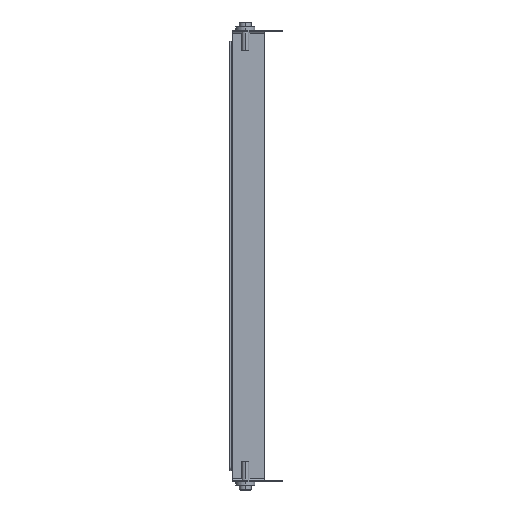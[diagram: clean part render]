
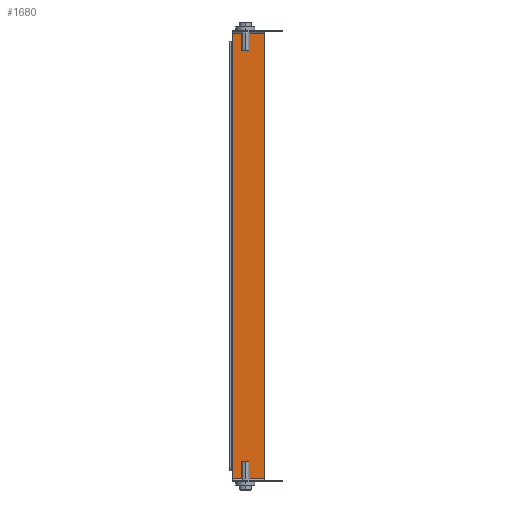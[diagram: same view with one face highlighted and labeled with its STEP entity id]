
A CAD part, left-side view. The second image highlights one B-rep face of the part: STEP entity #1680.
In plain terms, the highlighted planar face has unit normal (-1, 0, 0) as drawn and (0, 0, 1) by its records, which use the part's own axes.
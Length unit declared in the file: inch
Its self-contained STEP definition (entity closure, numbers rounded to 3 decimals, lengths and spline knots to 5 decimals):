
#327=DIRECTION('',(0.,-1.,0.));
#328=VECTOR('',#327,1.03498);
#329=CARTESIAN_POINT('',(7.3095,0.8125,0.));
#330=LINE('',#329,#328);
#335=DIRECTION('',(1.,0.,0.));
#336=VECTOR('',#335,14.619);
#337=CARTESIAN_POINT('',(-7.3095,-0.22248,0.));
#338=LINE('',#337,#336);
#717=DIRECTION('',(1.,0.,0.));
#718=VECTOR('',#717,0.2645);
#719=CARTESIAN_POINT('',(7.045,0.8125,0.));
#720=LINE('',#719,#718);
#803=DIRECTION('',(1.,0.,0.));
#804=VECTOR('',#803,14.09);
#805=CARTESIAN_POINT('',(-7.045,0.8125,0.));
#806=LINE('',#805,#804);
#829=DIRECTION('',(1.,0.,0.));
#830=VECTOR('',#829,0.2645);
#831=CARTESIAN_POINT('',(-7.3095,0.8125,0.));
#832=LINE('',#831,#830);
#851=DIRECTION('',(0.,1.,0.));
#852=VECTOR('',#851,1.03498);
#853=CARTESIAN_POINT('',(-7.3095,-0.22248,0.));
#854=LINE('',#853,#852);
#1164=CARTESIAN_POINT('',(-7.045,0.8125,0.));
#1166=VERTEX_POINT('',#1164);
#1179=CARTESIAN_POINT('',(-7.3095,-0.22248,0.));
#1180=CARTESIAN_POINT('',(7.3095,-0.22248,0.));
#1181=VERTEX_POINT('',#1179);
#1182=VERTEX_POINT('',#1180);
#1183=CARTESIAN_POINT('',(-7.3095,0.8125,0.));
#1184=VERTEX_POINT('',#1183);
#1186=CARTESIAN_POINT('',(7.045,0.8125,0.));
#1188=VERTEX_POINT('',#1186);
#1287=CARTESIAN_POINT('',(7.3095,0.8125,0.));
#1288=VERTEX_POINT('',#1287);
#1662=CARTESIAN_POINT('',(0.,0.,0.));
#1663=DIRECTION('',(0.,0.,1.));
#1664=DIRECTION('',(1.,0.,0.));
#1665=AXIS2_PLACEMENT_3D('',#1662,#1663,#1664);
#1666=PLANE('',#1665);
#1668=ORIENTED_EDGE('',*,*,#1667,.F.);
#1670=ORIENTED_EDGE('',*,*,#1669,.T.);
#1672=ORIENTED_EDGE('',*,*,#1671,.T.);
#1674=ORIENTED_EDGE('',*,*,#1673,.T.);
#1676=ORIENTED_EDGE('',*,*,#1675,.T.);
#1677=ORIENTED_EDGE('',*,*,#1653,.T.);
#1678=EDGE_LOOP('',(#1668,#1670,#1672,#1674,#1676,#1677));
#1679=FACE_OUTER_BOUND('',#1678,.F.);
#1653=EDGE_CURVE('',#1288,#1182,#330,.T.);
#1667=EDGE_CURVE('',#1181,#1182,#338,.T.);
#1669=EDGE_CURVE('',#1181,#1184,#854,.T.);
#1671=EDGE_CURVE('',#1184,#1166,#832,.T.);
#1673=EDGE_CURVE('',#1166,#1188,#806,.T.);
#1675=EDGE_CURVE('',#1188,#1288,#720,.T.);
#1680=ADVANCED_FACE('',(#1679),#1666,.T.);
